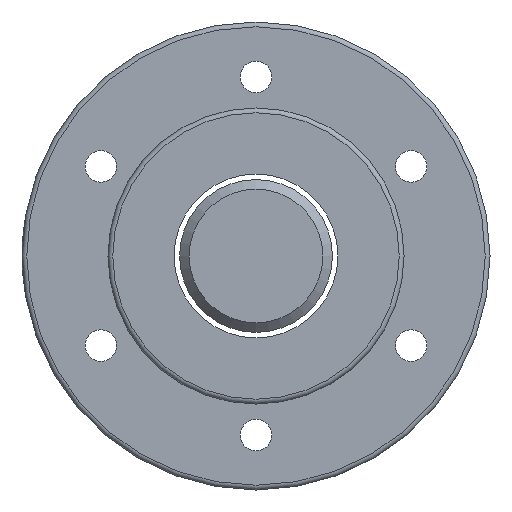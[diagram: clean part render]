
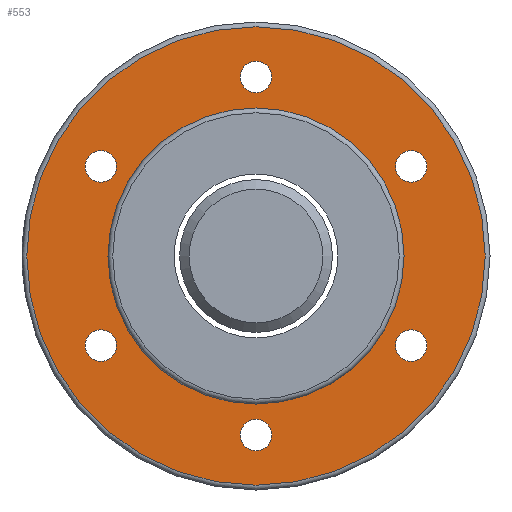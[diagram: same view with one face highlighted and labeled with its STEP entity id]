
A CAD part, left-side view. The second image highlights one B-rep face of the part: STEP entity #553.
In plain terms, the highlighted planar face has unit normal (-1, 0, 0).
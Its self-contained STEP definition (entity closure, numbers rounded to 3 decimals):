
#93=PLANE('',#659);
#160=ORIENTED_EDGE('',*,*,#216,.T.);
#161=ORIENTED_EDGE('',*,*,#224,.T.);
#162=ORIENTED_EDGE('',*,*,#232,.T.);
#163=ORIENTED_EDGE('',*,*,#244,.F.);
#164=ORIENTED_EDGE('',*,*,#241,.T.);
#165=ORIENTED_EDGE('',*,*,#236,.T.);
#166=ORIENTED_EDGE('',*,*,#228,.T.);
#167=ORIENTED_EDGE('',*,*,#220,.T.);
#216=EDGE_CURVE('',#269,#269,#313,.T.);
#220=EDGE_CURVE('',#273,#273,#317,.T.);
#224=EDGE_CURVE('',#277,#277,#321,.T.);
#228=EDGE_CURVE('',#281,#281,#325,.T.);
#232=EDGE_CURVE('',#285,#285,#329,.T.);
#236=EDGE_CURVE('',#289,#289,#333,.T.);
#241=EDGE_CURVE('',#294,#294,#338,.T.);
#244=EDGE_CURVE('',#297,#297,#341,.T.);
#269=VERTEX_POINT('',#896);
#273=VERTEX_POINT('',#907);
#277=VERTEX_POINT('',#918);
#281=VERTEX_POINT('',#929);
#285=VERTEX_POINT('',#940);
#289=VERTEX_POINT('',#951);
#294=VERTEX_POINT('',#965);
#297=VERTEX_POINT('',#973);
#313=CIRCLE('',#607,3.3);
#317=CIRCLE('',#614,3.3);
#321=CIRCLE('',#621,3.3);
#325=CIRCLE('',#628,3.3);
#329=CIRCLE('',#635,3.3);
#333=CIRCLE('',#642,3.3);
#338=CIRCLE('',#651,48.);
#341=CIRCLE('',#656,31.);
#405=EDGE_LOOP('',(#160));
#406=EDGE_LOOP('',(#161));
#407=EDGE_LOOP('',(#162));
#408=EDGE_LOOP('',(#163));
#409=EDGE_LOOP('',(#164));
#410=EDGE_LOOP('',(#165));
#411=EDGE_LOOP('',(#166));
#412=EDGE_LOOP('',(#167));
#492=FACE_BOUND('',#405,.T.);
#493=FACE_BOUND('',#406,.T.);
#494=FACE_BOUND('',#407,.T.);
#495=FACE_BOUND('',#408,.T.);
#496=FACE_BOUND('',#409,.T.);
#497=FACE_BOUND('',#410,.T.);
#498=FACE_BOUND('',#411,.T.);
#499=FACE_BOUND('',#412,.T.);
#553=ADVANCED_FACE('',(#492,#493,#494,#495,#496,#497,#498,#499),#93,.F.);
#607=AXIS2_PLACEMENT_3D('',#895,#710,#711);
#614=AXIS2_PLACEMENT_3D('',#906,#724,#725);
#621=AXIS2_PLACEMENT_3D('',#917,#738,#739);
#628=AXIS2_PLACEMENT_3D('',#928,#752,#753);
#635=AXIS2_PLACEMENT_3D('',#939,#766,#767);
#642=AXIS2_PLACEMENT_3D('',#950,#780,#781);
#651=AXIS2_PLACEMENT_3D('',#964,#798,#799);
#656=AXIS2_PLACEMENT_3D('',#972,#808,#809);
#659=AXIS2_PLACEMENT_3D('',#977,#814,#815);
#710=DIRECTION('',(1.,0.,0.));
#711=DIRECTION('',(0.,0.866,-0.5));
#724=DIRECTION('',(1.,0.,0.));
#725=DIRECTION('',(0.,0.866,0.5));
#738=DIRECTION('',(1.,0.,0.));
#739=DIRECTION('',(0.,0.,1.));
#752=DIRECTION('',(1.,0.,0.));
#753=DIRECTION('',(0.,-0.866,0.5));
#766=DIRECTION('',(1.,0.,0.));
#767=DIRECTION('',(0.,-0.866,-0.5));
#780=DIRECTION('',(1.,0.,0.));
#781=DIRECTION('',(0.,0.,-1.));
#798=DIRECTION('',(-1.,0.,0.));
#799=DIRECTION('',(0.,0.,-1.));
#808=DIRECTION('',(-1.,0.,0.));
#809=DIRECTION('',(0.,0.,1.));
#814=DIRECTION('',(1.,0.,0.));
#815=DIRECTION('',(0.,0.,-1.));
#895=CARTESIAN_POINT('',(21.5,32.476,-18.75));
#896=CARTESIAN_POINT('',(21.5,35.334,-20.4));
#906=CARTESIAN_POINT('',(21.5,32.476,18.75));
#907=CARTESIAN_POINT('',(21.5,35.334,20.4));
#917=CARTESIAN_POINT('',(21.5,0.,37.5));
#918=CARTESIAN_POINT('',(21.5,0.,40.8));
#928=CARTESIAN_POINT('',(21.5,-32.476,18.75));
#929=CARTESIAN_POINT('',(21.5,-35.334,20.4));
#939=CARTESIAN_POINT('',(21.5,-32.476,-18.75));
#940=CARTESIAN_POINT('',(21.5,-35.334,-20.4));
#950=CARTESIAN_POINT('',(21.5,0.,-37.5));
#951=CARTESIAN_POINT('',(21.5,0.,-40.8));
#964=CARTESIAN_POINT('',(21.5,0.,0.));
#965=CARTESIAN_POINT('',(21.5,0.,-48.));
#972=CARTESIAN_POINT('',(21.5,0.,0.));
#973=CARTESIAN_POINT('',(21.5,0.,31.));
#977=CARTESIAN_POINT('',(21.5,49.,0.));
